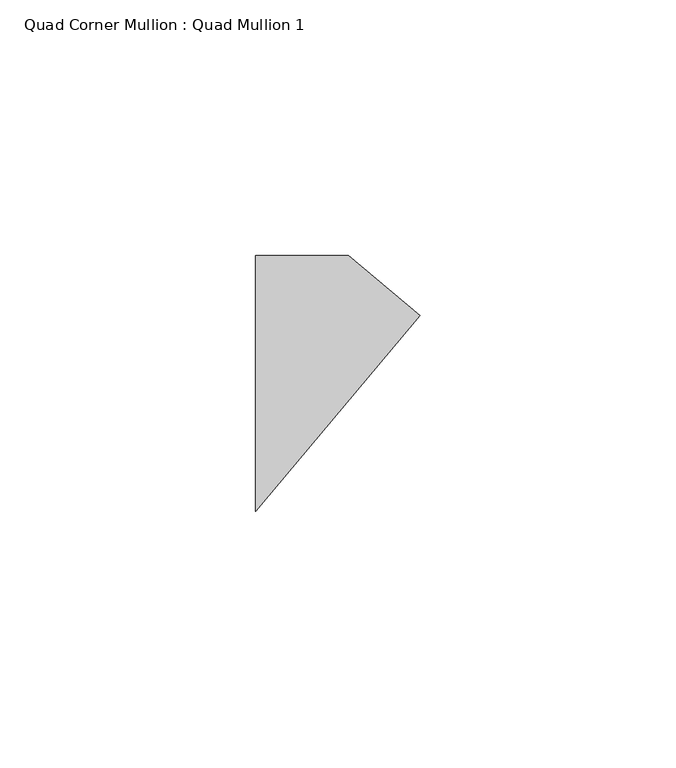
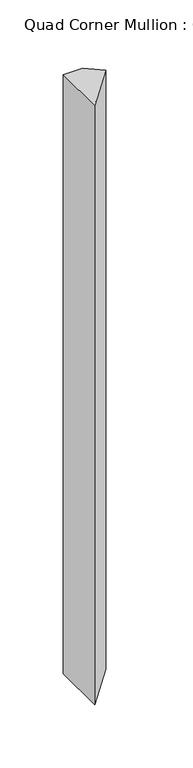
"""IFC4 building model written with IfcOpenShell, lengths in millimetres: member geometry, Quad Corner Mullion : Quad Mullion 1."""

from ifc_helpers import new_model, si_unit, frame, origin, place, context, project, spatial, polyline, outline, extrude, source, transform, mapped, element, save


def quad_corner_mullion_quad_mullion_1_e0604b87(model_context):
    return source(origin(), model_context, "Body", "SweptSolid", [
        extrude(outline(polyline([(23.0401246, 13.3022222), (-9.0992559, -25.0), (-9.0992559, 25.0), (9.0992559, 25.0), (23.0401246, 13.3022222)])), frame((0.0, 0.0, -580.0), z_axis=(0.0, 0.0, 1.0), x_axis=(1.0, 0.0, 0.0)), (0.0, 0.0, 1.0), 580.0),
    ])


if __name__ == "__main__":
    model = new_model("IFC4")
    model_context = context("Model", 3, world=origin())
    ifc_project = project(units=[si_unit("LENGTHUNIT", "METRE", prefix="MILLI")], contexts=[model_context])
    site = spatial("IfcSite", under=ifc_project)
    building = spatial("IfcBuilding", under=site)
    placement = place(None, origin())
    quad_corner_mullion_quad_mullion_1_shape = quad_corner_mullion_quad_mullion_1_e0604b87(model_context)
    element("IfcMember", 1, ObjectType="Quad Corner Mullion : Quad Mullion 1", at=placement, inside=building, context=model_context, shape_type="MappedRepresentation", body=[
        mapped(quad_corner_mullion_quad_mullion_1_shape, transform((0.0, 0.0, 0.0), x_axis=(1.0, 0.0, 0.0), y_axis=(0.0, 1.0, 0.0), z_axis=(0.0, 0.0, 1.0))),
    ])
    save(model, "model.ifc")
